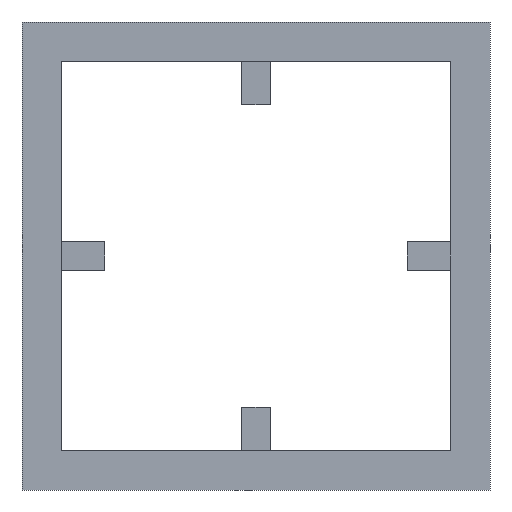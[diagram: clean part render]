
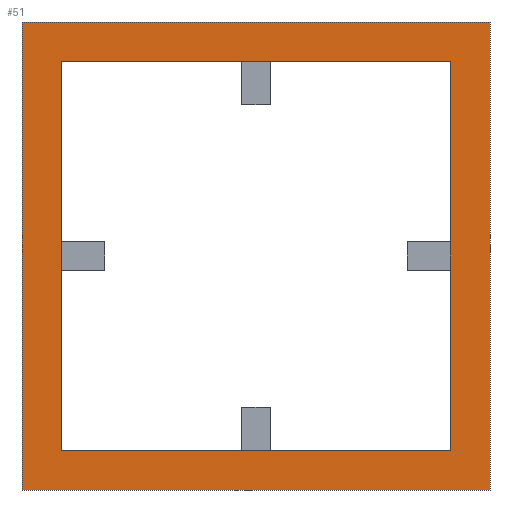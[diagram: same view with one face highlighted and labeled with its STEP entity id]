
A CAD part, left-side view. The second image highlights one B-rep face of the part: STEP entity #51.
In plain terms, the highlighted planar face has unit normal (-1, 0, 0).
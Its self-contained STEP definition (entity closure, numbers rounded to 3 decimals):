
#51 = ADVANCED_FACE('',(#52,#171),#66,.F.);
#52 = FACE_BOUND('',#53,.F.);
#53 = EDGE_LOOP('',(#54,#89,#117,#145));
#54 = ORIENTED_EDGE('',*,*,#55,.F.);
#55 = EDGE_CURVE('',#56,#58,#60,.T.);
#56 = VERTEX_POINT('',#57);
#57 = CARTESIAN_POINT('',(-12.,-65.,-65.));
#58 = VERTEX_POINT('',#59);
#59 = CARTESIAN_POINT('',(-12.,-65.,65.));
#60 = SURFACE_CURVE('',#61,(#65,#77),.PCURVE_S1.);
#61 = LINE('',#62,#63);
#62 = CARTESIAN_POINT('',(-12.,-65.,-65.));
#63 = VECTOR('',#64,1.);
#64 = DIRECTION('',(0.,0.,1.));
#65 = PCURVE('',#66,#71);
#66 = PLANE('',#67);
#67 = AXIS2_PLACEMENT_3D('',#68,#69,#70);
#68 = CARTESIAN_POINT('',(-12.,-65.,-65.));
#69 = DIRECTION('',(1.,0.,0.));
#70 = DIRECTION('',(0.,0.,1.));
#71 = DEFINITIONAL_REPRESENTATION('',(#72),#76);
#72 = LINE('',#73,#74);
#73 = CARTESIAN_POINT('',(0.,0.));
#74 = VECTOR('',#75,1.);
#75 = DIRECTION('',(1.,0.));
#76 = ( GEOMETRIC_REPRESENTATION_CONTEXT(2) 
PARAMETRIC_REPRESENTATION_CONTEXT() REPRESENTATION_CONTEXT('2D SPACE',''
  ) );
#77 = PCURVE('',#78,#83);
#78 = PLANE('',#79);
#79 = AXIS2_PLACEMENT_3D('',#80,#81,#82);
#80 = CARTESIAN_POINT('',(-12.,-65.,-65.));
#81 = DIRECTION('',(0.,1.,0.));
#82 = DIRECTION('',(0.,0.,1.));
#83 = DEFINITIONAL_REPRESENTATION('',(#84),#88);
#84 = LINE('',#85,#86);
#85 = CARTESIAN_POINT('',(0.,0.));
#86 = VECTOR('',#87,1.);
#87 = DIRECTION('',(1.,0.));
#88 = ( GEOMETRIC_REPRESENTATION_CONTEXT(2) 
PARAMETRIC_REPRESENTATION_CONTEXT() REPRESENTATION_CONTEXT('2D SPACE',''
  ) );
#89 = ORIENTED_EDGE('',*,*,#90,.T.);
#90 = EDGE_CURVE('',#56,#91,#93,.T.);
#91 = VERTEX_POINT('',#92);
#92 = CARTESIAN_POINT('',(-12.,65.,-65.));
#93 = SURFACE_CURVE('',#94,(#98,#105),.PCURVE_S1.);
#94 = LINE('',#95,#96);
#95 = CARTESIAN_POINT('',(-12.,-65.,-65.));
#96 = VECTOR('',#97,1.);
#97 = DIRECTION('',(0.,1.,0.));
#98 = PCURVE('',#66,#99);
#99 = DEFINITIONAL_REPRESENTATION('',(#100),#104);
#100 = LINE('',#101,#102);
#101 = CARTESIAN_POINT('',(0.,0.));
#102 = VECTOR('',#103,1.);
#103 = DIRECTION('',(0.,-1.));
#104 = ( GEOMETRIC_REPRESENTATION_CONTEXT(2) 
PARAMETRIC_REPRESENTATION_CONTEXT() REPRESENTATION_CONTEXT('2D SPACE',''
  ) );
#105 = PCURVE('',#106,#111);
#106 = PLANE('',#107);
#107 = AXIS2_PLACEMENT_3D('',#108,#109,#110);
#108 = CARTESIAN_POINT('',(-12.,-65.,-65.));
#109 = DIRECTION('',(0.,0.,1.));
#110 = DIRECTION('',(1.,0.,0.));
#111 = DEFINITIONAL_REPRESENTATION('',(#112),#116);
#112 = LINE('',#113,#114);
#113 = CARTESIAN_POINT('',(0.,0.));
#114 = VECTOR('',#115,1.);
#115 = DIRECTION('',(0.,1.));
#116 = ( GEOMETRIC_REPRESENTATION_CONTEXT(2) 
PARAMETRIC_REPRESENTATION_CONTEXT() REPRESENTATION_CONTEXT('2D SPACE',''
  ) );
#117 = ORIENTED_EDGE('',*,*,#118,.T.);
#118 = EDGE_CURVE('',#91,#119,#121,.T.);
#119 = VERTEX_POINT('',#120);
#120 = CARTESIAN_POINT('',(-12.,65.,65.));
#121 = SURFACE_CURVE('',#122,(#126,#133),.PCURVE_S1.);
#122 = LINE('',#123,#124);
#123 = CARTESIAN_POINT('',(-12.,65.,-65.));
#124 = VECTOR('',#125,1.);
#125 = DIRECTION('',(0.,0.,1.));
#126 = PCURVE('',#66,#127);
#127 = DEFINITIONAL_REPRESENTATION('',(#128),#132);
#128 = LINE('',#129,#130);
#129 = CARTESIAN_POINT('',(0.,-130.));
#130 = VECTOR('',#131,1.);
#131 = DIRECTION('',(1.,0.));
#132 = ( GEOMETRIC_REPRESENTATION_CONTEXT(2) 
PARAMETRIC_REPRESENTATION_CONTEXT() REPRESENTATION_CONTEXT('2D SPACE',''
  ) );
#133 = PCURVE('',#134,#139);
#134 = PLANE('',#135);
#135 = AXIS2_PLACEMENT_3D('',#136,#137,#138);
#136 = CARTESIAN_POINT('',(-12.,65.,-65.));
#137 = DIRECTION('',(0.,1.,0.));
#138 = DIRECTION('',(0.,0.,1.));
#139 = DEFINITIONAL_REPRESENTATION('',(#140),#144);
#140 = LINE('',#141,#142);
#141 = CARTESIAN_POINT('',(0.,0.));
#142 = VECTOR('',#143,1.);
#143 = DIRECTION('',(1.,0.));
#144 = ( GEOMETRIC_REPRESENTATION_CONTEXT(2) 
PARAMETRIC_REPRESENTATION_CONTEXT() REPRESENTATION_CONTEXT('2D SPACE',''
  ) );
#145 = ORIENTED_EDGE('',*,*,#146,.F.);
#146 = EDGE_CURVE('',#58,#119,#147,.T.);
#147 = SURFACE_CURVE('',#148,(#152,#159),.PCURVE_S1.);
#148 = LINE('',#149,#150);
#149 = CARTESIAN_POINT('',(-12.,-65.,65.));
#150 = VECTOR('',#151,1.);
#151 = DIRECTION('',(0.,1.,0.));
#152 = PCURVE('',#66,#153);
#153 = DEFINITIONAL_REPRESENTATION('',(#154),#158);
#154 = LINE('',#155,#156);
#155 = CARTESIAN_POINT('',(130.,0.));
#156 = VECTOR('',#157,1.);
#157 = DIRECTION('',(0.,-1.));
#158 = ( GEOMETRIC_REPRESENTATION_CONTEXT(2) 
PARAMETRIC_REPRESENTATION_CONTEXT() REPRESENTATION_CONTEXT('2D SPACE',''
  ) );
#159 = PCURVE('',#160,#165);
#160 = PLANE('',#161);
#161 = AXIS2_PLACEMENT_3D('',#162,#163,#164);
#162 = CARTESIAN_POINT('',(-12.,-65.,65.));
#163 = DIRECTION('',(0.,0.,1.));
#164 = DIRECTION('',(1.,0.,0.));
#165 = DEFINITIONAL_REPRESENTATION('',(#166),#170);
#166 = LINE('',#167,#168);
#167 = CARTESIAN_POINT('',(0.,0.));
#168 = VECTOR('',#169,1.);
#169 = DIRECTION('',(0.,1.));
#170 = ( GEOMETRIC_REPRESENTATION_CONTEXT(2) 
PARAMETRIC_REPRESENTATION_CONTEXT() REPRESENTATION_CONTEXT('2D SPACE',''
  ) );
#171 = FACE_BOUND('',#172,.F.);
#172 = EDGE_LOOP('',(#173,#201,#227,#253));
#173 = ORIENTED_EDGE('',*,*,#174,.T.);
#174 = EDGE_CURVE('',#175,#177,#179,.T.);
#175 = VERTEX_POINT('',#176);
#176 = CARTESIAN_POINT('',(-12.,54.,-54.));
#177 = VERTEX_POINT('',#178);
#178 = CARTESIAN_POINT('',(-12.,-54.,-54.));
#179 = SURFACE_CURVE('',#180,(#184,#190),.PCURVE_S1.);
#180 = LINE('',#181,#182);
#181 = CARTESIAN_POINT('',(-12.,-59.5,-54.));
#182 = VECTOR('',#183,1.);
#183 = DIRECTION('',(0.,-1.,0.));
#184 = PCURVE('',#66,#185);
#185 = DEFINITIONAL_REPRESENTATION('',(#186),#189);
#186 = B_SPLINE_CURVE_WITH_KNOTS('',1,(#187,#188),.UNSPECIFIED.,.F.,.F.,
  (2,2),(-113.5,-5.5),.PIECEWISE_BEZIER_KNOTS.);
#187 = CARTESIAN_POINT('',(11.,-119.));
#188 = CARTESIAN_POINT('',(11.,-11.));
#189 = ( GEOMETRIC_REPRESENTATION_CONTEXT(2) 
PARAMETRIC_REPRESENTATION_CONTEXT() REPRESENTATION_CONTEXT('2D SPACE',''
  ) );
#190 = PCURVE('',#191,#196);
#191 = PLANE('',#192);
#192 = AXIS2_PLACEMENT_3D('',#193,#194,#195);
#193 = CARTESIAN_POINT('',(-12.1,-54.,-54.));
#194 = DIRECTION('',(0.,0.,1.));
#195 = DIRECTION('',(1.,0.,0.));
#196 = DEFINITIONAL_REPRESENTATION('',(#197),#200);
#197 = B_SPLINE_CURVE_WITH_KNOTS('',1,(#198,#199),.UNSPECIFIED.,.F.,.F.,
  (2,2),(-113.5,-5.5),.PIECEWISE_BEZIER_KNOTS.);
#198 = CARTESIAN_POINT('',(0.1,108.));
#199 = CARTESIAN_POINT('',(0.1,0.));
#200 = ( GEOMETRIC_REPRESENTATION_CONTEXT(2) 
PARAMETRIC_REPRESENTATION_CONTEXT() REPRESENTATION_CONTEXT('2D SPACE',''
  ) );
#201 = ORIENTED_EDGE('',*,*,#202,.T.);
#202 = EDGE_CURVE('',#177,#203,#205,.T.);
#203 = VERTEX_POINT('',#204);
#204 = CARTESIAN_POINT('',(-12.,-54.,54.));
#205 = SURFACE_CURVE('',#206,(#210,#216),.PCURVE_S1.);
#206 = LINE('',#207,#208);
#207 = CARTESIAN_POINT('',(-12.,-54.,-59.5));
#208 = VECTOR('',#209,1.);
#209 = DIRECTION('',(0.,0.,1.));
#210 = PCURVE('',#66,#211);
#211 = DEFINITIONAL_REPRESENTATION('',(#212),#215);
#212 = B_SPLINE_CURVE_WITH_KNOTS('',1,(#213,#214),.UNSPECIFIED.,.F.,.F.,
  (2,2),(5.5,113.5),.PIECEWISE_BEZIER_KNOTS.);
#213 = CARTESIAN_POINT('',(11.,-11.));
#214 = CARTESIAN_POINT('',(119.,-11.));
#215 = ( GEOMETRIC_REPRESENTATION_CONTEXT(2) 
PARAMETRIC_REPRESENTATION_CONTEXT() REPRESENTATION_CONTEXT('2D SPACE',''
  ) );
#216 = PCURVE('',#217,#222);
#217 = PLANE('',#218);
#218 = AXIS2_PLACEMENT_3D('',#219,#220,#221);
#219 = CARTESIAN_POINT('',(-12.1,-54.,-54.));
#220 = DIRECTION('',(0.,1.,0.));
#221 = DIRECTION('',(0.,0.,1.));
#222 = DEFINITIONAL_REPRESENTATION('',(#223),#226);
#223 = B_SPLINE_CURVE_WITH_KNOTS('',1,(#224,#225),.UNSPECIFIED.,.F.,.F.,
  (2,2),(5.5,113.5),.PIECEWISE_BEZIER_KNOTS.);
#224 = CARTESIAN_POINT('',(0.,0.1));
#225 = CARTESIAN_POINT('',(108.,0.1));
#226 = ( GEOMETRIC_REPRESENTATION_CONTEXT(2) 
PARAMETRIC_REPRESENTATION_CONTEXT() REPRESENTATION_CONTEXT('2D SPACE',''
  ) );
#227 = ORIENTED_EDGE('',*,*,#228,.F.);
#228 = EDGE_CURVE('',#229,#203,#231,.T.);
#229 = VERTEX_POINT('',#230);
#230 = CARTESIAN_POINT('',(-12.,54.,54.));
#231 = SURFACE_CURVE('',#232,(#236,#242),.PCURVE_S1.);
#232 = LINE('',#233,#234);
#233 = CARTESIAN_POINT('',(-12.,-59.5,54.));
#234 = VECTOR('',#235,1.);
#235 = DIRECTION('',(0.,-1.,0.));
#236 = PCURVE('',#66,#237);
#237 = DEFINITIONAL_REPRESENTATION('',(#238),#241);
#238 = B_SPLINE_CURVE_WITH_KNOTS('',1,(#239,#240),.UNSPECIFIED.,.F.,.F.,
  (2,2),(-113.5,-5.5),.PIECEWISE_BEZIER_KNOTS.);
#239 = CARTESIAN_POINT('',(119.,-119.));
#240 = CARTESIAN_POINT('',(119.,-11.));
#241 = ( GEOMETRIC_REPRESENTATION_CONTEXT(2) 
PARAMETRIC_REPRESENTATION_CONTEXT() REPRESENTATION_CONTEXT('2D SPACE',''
  ) );
#242 = PCURVE('',#243,#248);
#243 = PLANE('',#244);
#244 = AXIS2_PLACEMENT_3D('',#245,#246,#247);
#245 = CARTESIAN_POINT('',(-12.1,-54.,54.));
#246 = DIRECTION('',(0.,0.,1.));
#247 = DIRECTION('',(1.,0.,0.));
#248 = DEFINITIONAL_REPRESENTATION('',(#249),#252);
#249 = B_SPLINE_CURVE_WITH_KNOTS('',1,(#250,#251),.UNSPECIFIED.,.F.,.F.,
  (2,2),(-113.5,-5.5),.PIECEWISE_BEZIER_KNOTS.);
#250 = CARTESIAN_POINT('',(0.1,108.));
#251 = CARTESIAN_POINT('',(0.1,0.));
#252 = ( GEOMETRIC_REPRESENTATION_CONTEXT(2) 
PARAMETRIC_REPRESENTATION_CONTEXT() REPRESENTATION_CONTEXT('2D SPACE',''
  ) );
#253 = ORIENTED_EDGE('',*,*,#254,.F.);
#254 = EDGE_CURVE('',#175,#229,#255,.T.);
#255 = SURFACE_CURVE('',#256,(#260,#266),.PCURVE_S1.);
#256 = LINE('',#257,#258);
#257 = CARTESIAN_POINT('',(-12.,54.,-59.5));
#258 = VECTOR('',#259,1.);
#259 = DIRECTION('',(0.,0.,1.));
#260 = PCURVE('',#66,#261);
#261 = DEFINITIONAL_REPRESENTATION('',(#262),#265);
#262 = B_SPLINE_CURVE_WITH_KNOTS('',1,(#263,#264),.UNSPECIFIED.,.F.,.F.,
  (2,2),(5.5,113.5),.PIECEWISE_BEZIER_KNOTS.);
#263 = CARTESIAN_POINT('',(11.,-119.));
#264 = CARTESIAN_POINT('',(119.,-119.));
#265 = ( GEOMETRIC_REPRESENTATION_CONTEXT(2) 
PARAMETRIC_REPRESENTATION_CONTEXT() REPRESENTATION_CONTEXT('2D SPACE',''
  ) );
#266 = PCURVE('',#267,#272);
#267 = PLANE('',#268);
#268 = AXIS2_PLACEMENT_3D('',#269,#270,#271);
#269 = CARTESIAN_POINT('',(-12.1,54.,-54.));
#270 = DIRECTION('',(0.,1.,0.));
#271 = DIRECTION('',(0.,0.,1.));
#272 = DEFINITIONAL_REPRESENTATION('',(#273),#276);
#273 = B_SPLINE_CURVE_WITH_KNOTS('',1,(#274,#275),.UNSPECIFIED.,.F.,.F.,
  (2,2),(5.5,113.5),.PIECEWISE_BEZIER_KNOTS.);
#274 = CARTESIAN_POINT('',(0.,0.1));
#275 = CARTESIAN_POINT('',(108.,0.1));
#276 = ( GEOMETRIC_REPRESENTATION_CONTEXT(2) 
PARAMETRIC_REPRESENTATION_CONTEXT() REPRESENTATION_CONTEXT('2D SPACE',''
  ) );
